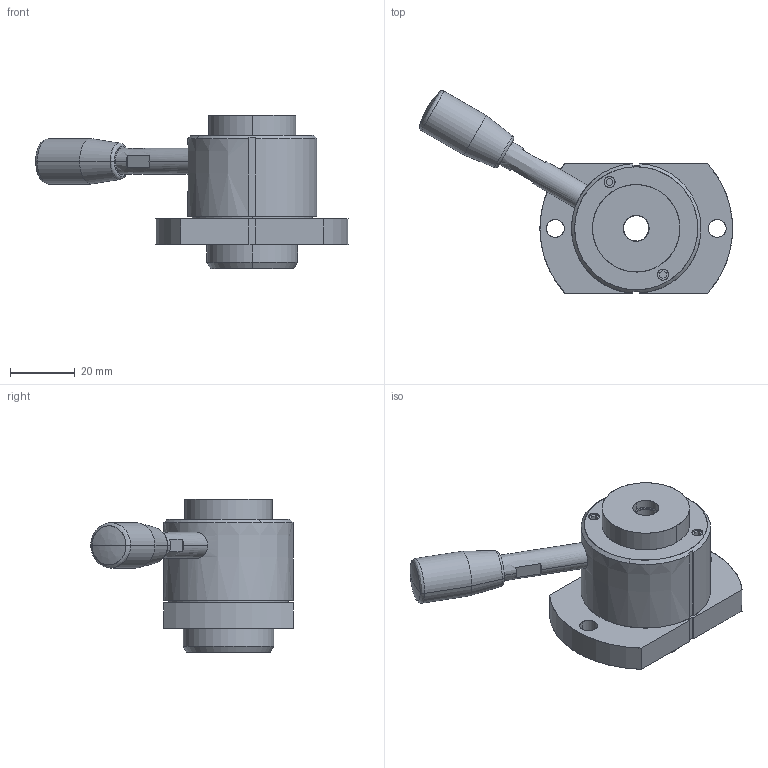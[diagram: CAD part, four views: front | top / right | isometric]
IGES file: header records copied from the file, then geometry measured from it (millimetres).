
Start section: SolidWorks IGES file using analytic representation for surfaces
Global section: file name: X:\14_SW2023(ver2023)\01_2025-01新製品(WHS)\OTC\@データ\qlrcw40l-050\QLRCW40L-050.igs; native system: SolidWorks 2023; preprocessor: SolidWorks 2023; author: ImaoCorp; date: 250128.115748; units: millimetre
Bounding box: 96.7 x 62.5 x 47.5 mm (x, y, z)
Surface area: 21761.9 mm2 (no closed solid volume)
Topology: 0 solids, 0 shells, 135 faces, 2263 edges, 2261 vertices
Faces by surface type: bspline 68, revolution 67
